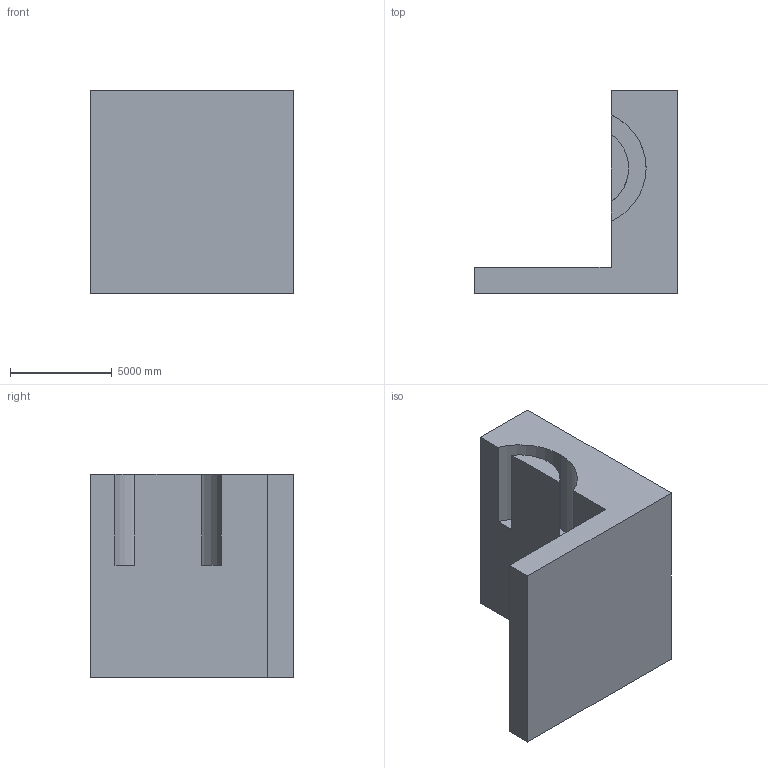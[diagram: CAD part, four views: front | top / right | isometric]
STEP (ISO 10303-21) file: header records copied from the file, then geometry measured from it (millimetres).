
FILE_DESCRIPTION (( 'STEP AP203' ), '1' );
FILE_NAME ('1028.STEP', '2022-08-18T12:28:46', ( 'user' ), ( '' ), 'SwSTEP 2.0', 'SolidWorks 2021', '' );
FILE_SCHEMA (( 'CONFIG_CONTROL_DESIGN' ));
Length unit declared in the file: centimetre
Products named in the file (1): 1028
Bounding box: 10000 x 10000 x 10000 mm (x, y, z)
Volume: 393840756341.4 mm3; surface area: 521137614.6 mm2
Topology: 1 solids, 1 shells, 14 faces, 36 edges, 24 vertices
Faces by surface type: plane 10, cylinder 4
Entity records: 505 total; most frequent: CARTESIAN_POINT 75, DIRECTION 74, ORIENTED_EDGE 72, EDGE_CURVE 36, VECTOR 28, LINE 28, VERTEX_POINT 24, AXIS2_PLACEMENT_3D 23
